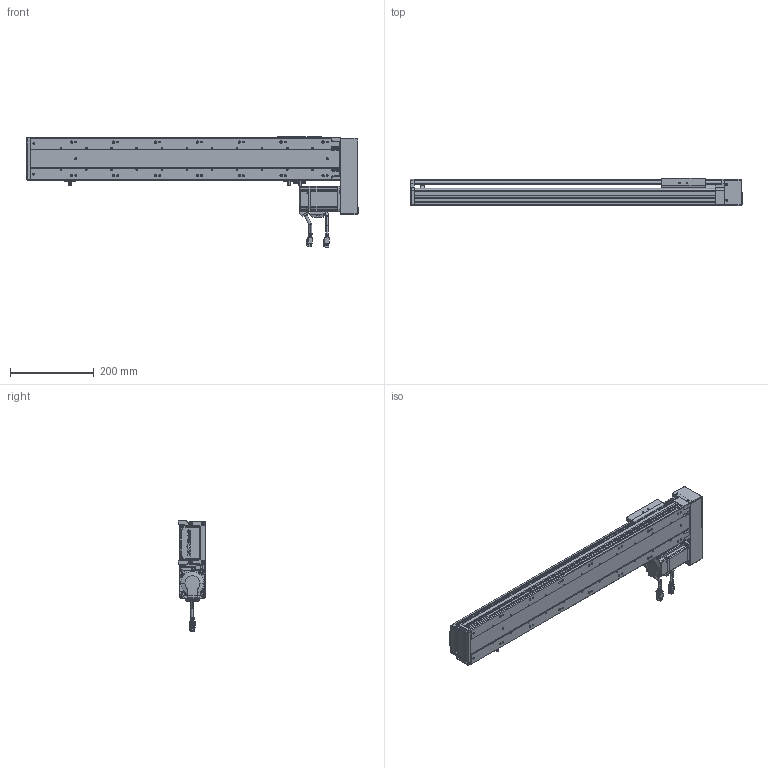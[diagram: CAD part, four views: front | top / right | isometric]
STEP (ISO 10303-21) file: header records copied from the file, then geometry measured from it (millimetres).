
FILE_DESCRIPTION (( 'STEP AP203' ), '1' );
FILE_NAME ('RY100S-L1620-300-RK(15双轨).SLDASM_550.step', '2021-02-20T08:48:09', ( '盈信电脑' ), ( '东莞市道滘镇水果街19号' ), 'SwSTEP 2.0', 'SolidWorks 2012', '' );
FILE_SCHEMA (( 'CONFIG_CONTROL_DESIGN' ));
Length unit declared in the file: millimetre
Products named in the file (21): RY100S-L1620-300-RK(15邧寢).SLDASM_550; 7; 蚾饜极1^RY100S-L1620-300-RK(15邧寢); 侂狟200W萇儂; RY100S铝滑块（15双轨单滑块）底组装导轨; 4; 6; 5; 1; RY100S转折电机安装板（15双轨）; 3; 2; RY100S转折电机端支撑座(15双轨); 滅袉蝶18-24; RY100S左右折电机罩（15双轨）; RY100綴裔啣; 覜茼ん672; RY100S-300-LK转折型材上盖(15双轨)_550; 滅袉蝶18-10; RY100俋离覜茼え; RY100S-350-LK型材底座(低组15双轨)_550
Assembly tree (22 placements, depth 4):
  RY100S-L1620-300-RK(15邧寢).SLDASM_550
    RY100S-350-LK型材底座(低组15双轨)_550
    RY100S-300-LK转折型材上盖(15双轨)_550
    覜茼ん672  x3
    滅袉蝶18-10
    RY100俋离覜茼え
    RY100S转折电机端支撑座(15双轨)
    滅袉蝶18-24
    RY100綴裔啣
    蚾饜极1^RY100S-L1620-300-RK(15邧寢)
      RY100S左右折电机罩（15双轨）
      RY100S转折电机安装板（15双轨）
      侂狟200W萇儂
        1
        2
        3
        4
        5
        6
        7
    RY100S铝滑块（15双轨单滑块）底组装导轨
Bounding box: 792.5 x 65 x 263.3 mm (x, y, z)
Volume: 1974956.2 mm3; surface area: 754246.9 mm2
Topology: 20 solids, 20 shells, 2748 faces, 7441 edges, 4822 vertices
Faces by surface type: plane 1563, cylinder 914, cone 157, bspline 114
Entity records: 90194 total; most frequent: CARTESIAN_POINT 23486, ORIENTED_EDGE 13726, DIRECTION 12848, EDGE_CURVE 6863, VERTEX_POINT 4502, VECTOR 4492, LINE 4492, AXIS2_PLACEMENT_3D 4178
